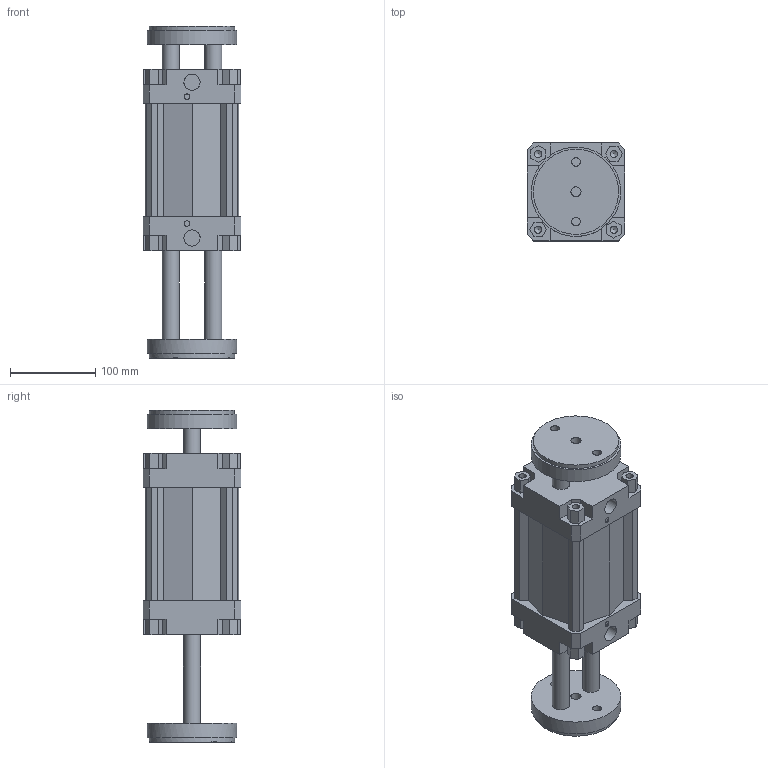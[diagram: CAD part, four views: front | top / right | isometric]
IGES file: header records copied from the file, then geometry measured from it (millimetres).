
Global section: file name: 132#_100_0075_06; native system: Autodesk Inventor 2014; preprocessor: unknown; author: A. Manieri; date: 20161006.163642; units: millimetre
Bounding box: 115 x 115 x 390 mm (x, y, z)
Volume: 2247476.6 mm3; surface area: 327377.2 mm2
Topology: 2 solids, 2 shells, 190 faces, 518 edges, 354 vertices
Faces by surface type: bspline 190
